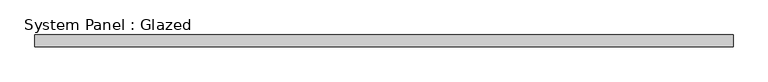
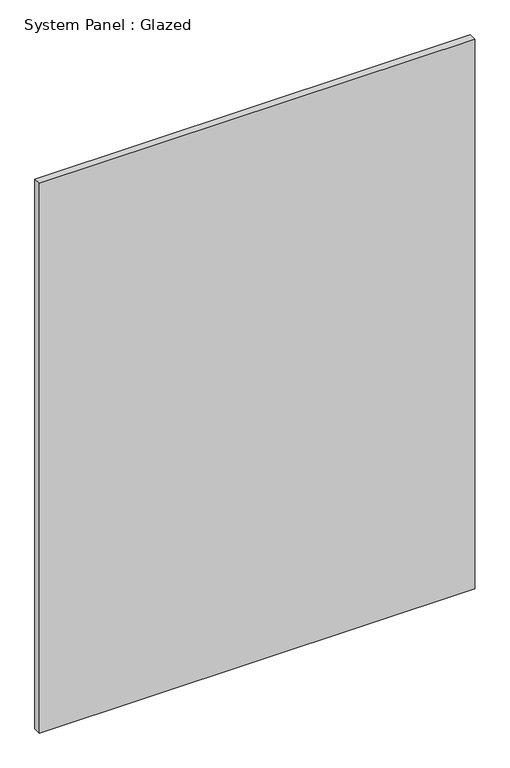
"""IFC4 building model written with IfcOpenShell, lengths in millimetres: plate geometry, System Panel : Glazed."""

from ifc_helpers import new_model, si_unit, origin, origin_with_axes, place, context, project, spatial, polyline, outline, extrude, source, transform, mapped, element, save


def system_panel_glazed_546f7082(model_context):
    return source(origin(), model_context, "Body", "SweptSolid", [
        extrude(outline(polyline([(742.4954406, 19.05), (-742.4954406, 19.05), (-742.4954406, 44.45), (742.4954406, 44.45), (742.4954406, 19.05)])), origin_with_axes(), (0.0, 0.0, 1.0), 1981.2),
    ])


if __name__ == "__main__":
    model = new_model("IFC4")
    model_context = context("Model", 3, world=origin())
    ifc_project = project(units=[si_unit("LENGTHUNIT", "METRE", prefix="MILLI")], contexts=[model_context])
    site = spatial("IfcSite", under=ifc_project)
    building = spatial("IfcBuilding", under=site)
    placement = place(None, origin())
    system_panel_glazed_shape = system_panel_glazed_546f7082(model_context)
    element("IfcPlate", 1, ObjectType="System Panel : Glazed", at=placement, inside=building, context=model_context, shape_type="MappedRepresentation", body=[
        mapped(system_panel_glazed_shape, transform((0.0, 0.0, 0.0), x_axis=(1.0, 0.0, 0.0), y_axis=(0.0, 1.0, 0.0), z_axis=(0.0, 0.0, 1.0))),
    ])
    save(model, "model.ifc")
